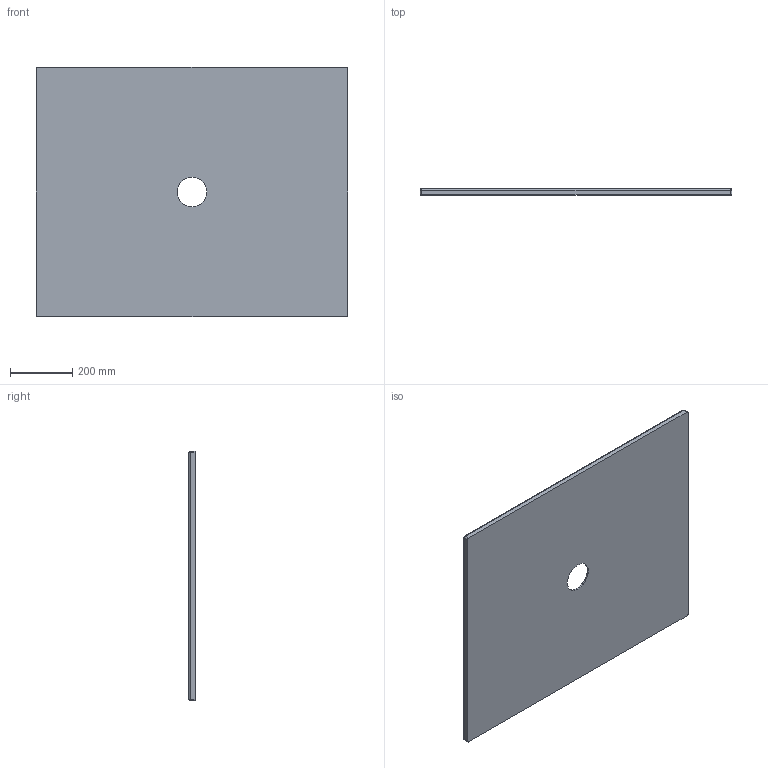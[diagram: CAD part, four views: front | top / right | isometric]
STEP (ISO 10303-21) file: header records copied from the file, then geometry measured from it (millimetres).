
FILE_DESCRIPTION (( 'STEP AP203' ), '1' );
FILE_NAME ('SDPD10008020.STEP', '2023-03-31T10:42:27', ( '' ), ( '' ), 'SwSTEP 2.0', 'SolidWorks 2023', '' );
FILE_SCHEMA (( 'CONFIG_CONTROL_DESIGN' ));
Length unit declared in the file: millimetre
Products named in the file (1): SDPD10008020
Bounding box: 1000 x 20 x 800 mm (x, y, z)
Volume: 13304187.6 mm3; surface area: 1645471 mm2
Topology: 1 solids, 1 shells, 26 faces, 62 edges, 40 vertices
Faces by surface type: cylinder 9, plane 8, sphere 4, bspline 2, torus 2, cone 1
Full cylindrical faces by diameter (mm): 95 x1
Entity records: 2566 total; most frequent: CARTESIAN_POINT 1950, DIRECTION 108, ORIENTED_EDGE 104, EDGE_CURVE 52, AXIS2_PLACEMENT_3D 44, EDGE_LOOP 36, VERTEX_POINT 36, FACE_OUTER_BOUND 31
